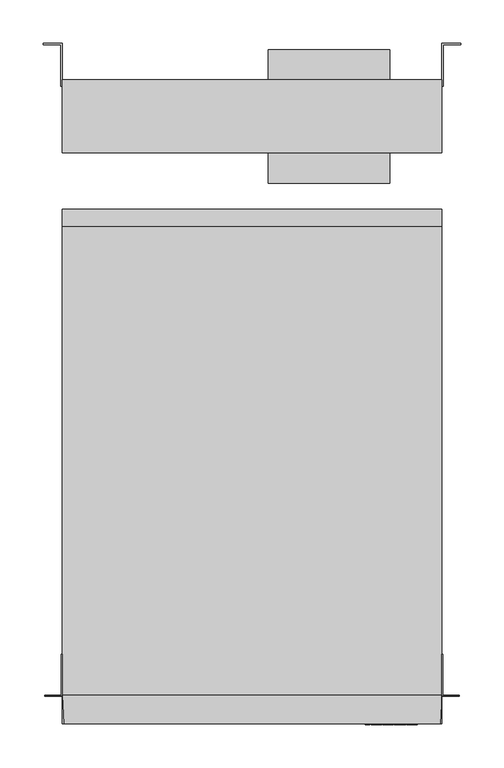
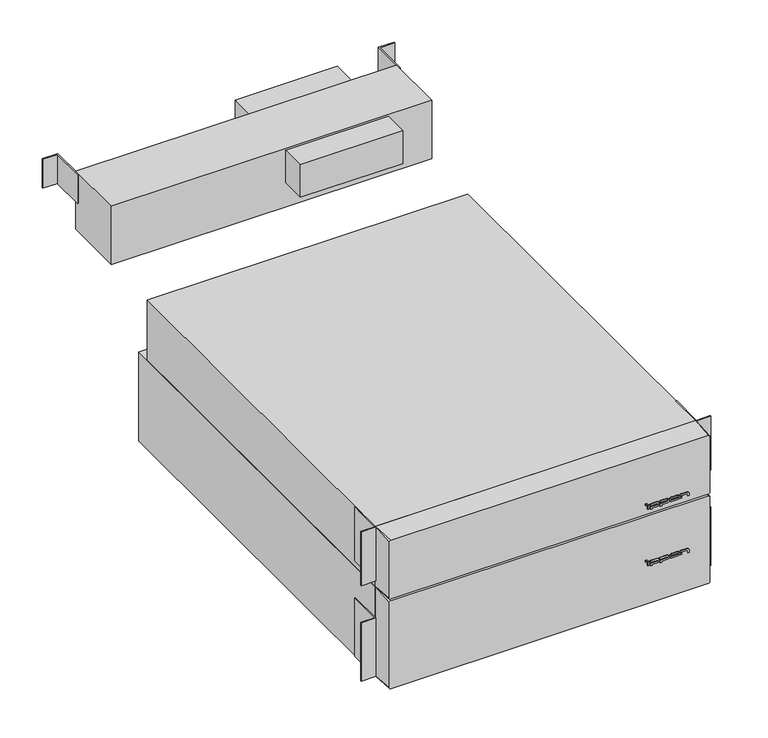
"""IFC4 building model written with IfcOpenShell, lengths in millimetres: proxy geometry, IPPON_ИБП_Innova RT II_60000_10000ВА_Горизонтальный : Innova RT II 6000 ВА."""

from ifc_helpers import new_model, si_unit, point, frame, frame_2d, origin, place, context, project, spatial, polyline, circle_curve, trimmed, segment, composite_curve, outline, extrude, source, transform, mapped, element, save
from ifc_brep_helpers import plane_surface, spline_surface, advanced_brep


def electrical_equipment_16744219(model_context):
    return source(origin(), model_context, "Body", "SolidModel", [
        extrude(outline(polyline([(219.0, 658.2629129), (-219.0, 658.2629129), (-219.0, 742.2629129), (219.0, 742.2629129), (219.0, 658.2629129)])), frame((0.0, 0.0, 88.0), z_axis=(0.0, 0.0, 1.0), x_axis=(1.0, 0.0, 0.0)), (0.0, 0.0, 1.0), 84.0),
        extrude(outline(polyline([(219.0, 784.5), (240.5, 784.5), (240.5, 783.0), (220.5, 783.0), (220.5, 735.2629129), (219.0, 735.2629129), (219.0, 784.5)])), frame((0.0, 0.0, 130.0), z_axis=(0.0, 0.0, 1.0), x_axis=(1.0, 0.0, 0.0)), (0.0, 0.0, 1.0), 42.0),
        extrude(outline(polyline([(-219.0, 784.5), (-219.0, 735.2629129), (-220.5, 735.2629129), (-220.5, 783.0), (-240.5, 783.0), (-240.5, 784.5), (-219.0, 784.5)])), frame((0.0, 0.0, 130.0), z_axis=(0.0, 0.0, 1.0), x_axis=(1.0, 0.0, 0.0)), (0.0, 0.0, 1.0), 42.0),
        extrude(outline(polyline([(159.0, 623.2629129), (19.0, 623.2629129), (19.0, 777.2629129), (159.0, 777.2629129), (159.0, 623.2629129)])), frame((0.0, 0.0, 123.0), z_axis=(0.0, 0.0, 1.0), x_axis=(1.0, 0.0, 0.0)), (0.0, 0.0, 1.0), 47.0),
        extrude(outline(polyline([(132.8281867, -1.0), (130.8281867, -1.0), (130.8281867, 0.0), (132.8281867, 0.0), (132.8281867, -1.0)])), frame((0.0, 0.0, -65.8), z_axis=(0.0, 0.0, 1.0), x_axis=(1.0, 0.0, 0.0)), (0.0, 0.0, 1.0), 2.3),
        extrude(outline(polyline([(180.6035474, -1.0), (178.6035474, -1.0), (178.6035474, 0.0), (180.6035474, 0.0), (180.6035474, -1.0)])), frame((0.0, 0.0, -71.8), z_axis=(0.0, 0.0, 1.0), x_axis=(1.0, 0.0, 0.0)), (0.0, 0.0, 1.0), 2.2268231),
        extrude(outline(polyline([(135.561435, -1.0), (133.5166676, -1.0), (133.5166676, 0.0), (135.561435, 0.0), (135.561435, -1.0)])), frame((0.0, 0.0, -71.8), z_axis=(0.0, 0.0, 1.0), x_axis=(1.0, 0.0, 0.0)), (0.0, 0.0, 1.0), 6.0),
        extrude(outline(composite_curve([segment(polyline([(-68.06244, 137.7758891), (-68.06244, 147.0076464)]), True, "CONTINUOUS"), segment(trimmed(circle_curve(frame_2d((-68.9189193, 147.0076464)), 0.8564793), [point((-68.06244, 147.0076464))], [point((-69.7753986, 147.0076464))], True, "CARTESIAN"), True, "CONTINUOUS"), segment(polyline([(-69.7753986, 147.0076464), (-69.7753986, 137.7758891), (-73.2659032, 137.7758891), (-73.2659032, 139.7758891), (-71.8, 139.7758891), (-71.8, 146.8513964)]), True, "CONTINUOUS"), segment(trimmed(circle_curve(frame_2d((-68.8, 146.8513964)), 3.0), [point((-71.8, 146.8513964))], [point((-65.8, 146.8513964))], False, "CARTESIAN"), True, "CONTINUOUS"), segment(polyline([(-65.8, 146.8513964), (-65.8, 137.7758891), (-68.06244, 137.7758891)]), True, "CONTINUOUS")], self_intersect=False)), frame((0.0, -1.0, 0.0), z_axis=(0.0, 1.0, 0.0), x_axis=(0.0, 0.0, 1.0)), (0.0, 0.0, 1.0), 1.0),
        extrude(outline(composite_curve([segment(polyline([(-68.06244, 150.9828909), (-68.06244, 160.2146482)]), True, "CONTINUOUS"), segment(trimmed(circle_curve(frame_2d((-68.9189193, 160.2146482)), 0.8564793), [point((-68.06244, 160.2146482))], [point((-69.7753986, 160.2146482))], True, "CARTESIAN"), True, "CONTINUOUS"), segment(polyline([(-69.7753986, 160.2146482), (-69.7753986, 150.9828909), (-73.2659032, 150.9828909), (-73.2659032, 152.9828909), (-71.8, 152.9828909), (-71.8, 160.0583982)]), True, "CONTINUOUS"), segment(trimmed(circle_curve(frame_2d((-68.8, 160.0583982)), 3.0), [point((-71.8, 160.0583982))], [point((-65.8, 160.0583982))], False, "CARTESIAN"), True, "CONTINUOUS"), segment(polyline([(-65.8, 160.0583982), (-65.8, 150.9828909), (-68.06244, 150.9828909)]), True, "CONTINUOUS")], self_intersect=False)), frame((0.0, -1.0, 0.0), z_axis=(0.0, 1.0, 0.0), x_axis=(0.0, 0.0, 1.0)), (0.0, 0.0, 1.0), 1.0),
        extrude(outline(composite_curve([segment(trimmed(circle_curve(frame_2d((-68.8, 174.558657)), 3.0), [point((-71.8, 174.558657))], [point((-65.8, 174.558657))], False, "CARTESIAN"), True, "CONTINUOUS"), segment(polyline([(-65.8, 174.558657), (-65.8, 166.958657)]), True, "CONTINUOUS"), segment(trimmed(circle_curve(frame_2d((-68.8, 166.958657)), 3.0), [point((-65.8, 166.958657))], [point((-71.8, 166.958657))], False, "CARTESIAN"), True, "CONTINUOUS"), segment(polyline([(-71.8, 166.958657), (-71.8, 174.558657)]), True, "CONTINUOUS")], self_intersect=False), holes=[composite_curve([segment(polyline([(-69.7753986, 174.714907), (-69.7753986, 166.802407)]), True, "CONTINUOUS"), segment(trimmed(circle_curve(frame_2d((-68.9189193, 166.802407)), 0.8564793), [point((-69.7753986, 166.802407))], [point((-68.06244, 166.802407))], True, "CARTESIAN"), True, "CONTINUOUS"), segment(polyline([(-68.06244, 166.802407), (-68.06244, 174.714907)]), True, "CONTINUOUS"), segment(trimmed(circle_curve(frame_2d((-68.9189193, 174.714907)), 0.8564793), [point((-68.06244, 174.714907))], [point((-69.7753986, 174.714907))], True, "CARTESIAN"), True, "CONTINUOUS")], self_intersect=False)]), frame((0.0, -1.0, 0.0), z_axis=(0.0, 1.0, 0.0), x_axis=(0.0, 0.0, 1.0)), (0.0, 0.0, 1.0), 1.0),
        extrude(outline(composite_curve([segment(polyline([(-68.06244, 178.6035474), (-68.06244, 187.8353046)]), True, "CONTINUOUS"), segment(trimmed(circle_curve(frame_2d((-68.9189193, 187.8353046)), 0.8564793), [point((-68.06244, 187.8353046))], [point((-68.9189193, 188.6917839))], True, "CARTESIAN"), True, "CONTINUOUS"), segment(polyline([(-68.9189193, 188.6917839), (-71.8, 188.6917839), (-71.8, 190.6317921), (-68.2695835, 190.6317921)]), True, "CONTINUOUS"), segment(trimmed(circle_curve(frame_2d((-68.8, 187.6790546)), 3.0), [point((-68.2695835, 190.6317921))], [point((-65.8, 187.6790546))], False, "CARTESIAN"), True, "CONTINUOUS"), segment(polyline([(-65.8, 187.6790546), (-65.8, 178.6035474), (-68.06244, 178.6035474)]), True, "CONTINUOUS")], self_intersect=False)), frame((0.0, -1.0, 0.0), z_axis=(0.0, 1.0, 0.0), x_axis=(0.0, 0.0, 1.0)), (0.0, 0.0, 1.0), 1.0),
        extrude(outline(polyline([(132.8281867, -1.0), (130.8281867, -1.0), (130.8281867, 0.0), (132.8281867, 0.0), (132.8281867, -1.0)])), frame((0.0, 0.0, 16.0), z_axis=(0.0, 0.0, 1.0), x_axis=(1.0, 0.0, 0.0)), (0.0, 0.0, 1.0), 2.3),
        extrude(outline(polyline([(180.6035474, -1.0), (178.6035474, -1.0), (178.6035474, 0.0), (180.6035474, 0.0), (180.6035474, -1.0)])), frame((0.0, 0.0, 10.0), z_axis=(0.0, 0.0, 1.0), x_axis=(1.0, 0.0, 0.0)), (0.0, 0.0, 1.0), 2.2268231),
        extrude(outline(polyline([(135.561435, -1.0), (133.5166676, -1.0), (133.5166676, 0.0), (135.561435, 0.0), (135.561435, -1.0)])), frame((0.0, 0.0, 10.0), z_axis=(0.0, 0.0, 1.0), x_axis=(1.0, 0.0, 0.0)), (0.0, 0.0, 1.0), 6.0),
        extrude(outline(composite_curve([segment(polyline([(13.73756, 137.7758891), (13.73756, 147.0076464)]), True, "CONTINUOUS"), segment(trimmed(circle_curve(frame_2d((12.8810807, 147.0076464)), 0.8564793), [point((13.73756, 147.0076464))], [point((12.0246014, 147.0076464))], True, "CARTESIAN"), True, "CONTINUOUS"), segment(polyline([(12.0246014, 147.0076464), (12.0246014, 137.7758891), (8.5340968, 137.7758891), (8.5340968, 139.7758891), (10.0, 139.7758891), (10.0, 146.8513964)]), True, "CONTINUOUS"), segment(trimmed(circle_curve(frame_2d((13.0, 146.8513964)), 3.0), [point((10.0, 146.8513964))], [point((16.0, 146.8513964))], False, "CARTESIAN"), True, "CONTINUOUS"), segment(polyline([(16.0, 146.8513964), (16.0, 137.7758891), (13.73756, 137.7758891)]), True, "CONTINUOUS")], self_intersect=False)), frame((0.0, -1.0, 0.0), z_axis=(0.0, 1.0, 0.0), x_axis=(0.0, 0.0, 1.0)), (0.0, 0.0, 1.0), 1.0),
        extrude(outline(composite_curve([segment(polyline([(13.73756, 150.9828909), (13.73756, 160.2146482)]), True, "CONTINUOUS"), segment(trimmed(circle_curve(frame_2d((12.8810807, 160.2146482)), 0.8564793), [point((13.73756, 160.2146482))], [point((12.0246014, 160.2146482))], True, "CARTESIAN"), True, "CONTINUOUS"), segment(polyline([(12.0246014, 160.2146482), (12.0246014, 150.9828909), (8.5340968, 150.9828909), (8.5340968, 152.9828909), (10.0, 152.9828909), (10.0, 160.0583982)]), True, "CONTINUOUS"), segment(trimmed(circle_curve(frame_2d((13.0, 160.0583982)), 3.0), [point((10.0, 160.0583982))], [point((16.0, 160.0583982))], False, "CARTESIAN"), True, "CONTINUOUS"), segment(polyline([(16.0, 160.0583982), (16.0, 150.9828909), (13.73756, 150.9828909)]), True, "CONTINUOUS")], self_intersect=False)), frame((0.0, -1.0, 0.0), z_axis=(0.0, 1.0, 0.0), x_axis=(0.0, 0.0, 1.0)), (0.0, 0.0, 1.0), 1.0),
        extrude(outline(composite_curve([segment(trimmed(circle_curve(frame_2d((13.0, 174.558657)), 3.0), [point((10.0, 174.558657))], [point((16.0, 174.558657))], False, "CARTESIAN"), True, "CONTINUOUS"), segment(polyline([(16.0, 174.558657), (16.0, 166.958657)]), True, "CONTINUOUS"), segment(trimmed(circle_curve(frame_2d((13.0, 166.958657)), 3.0), [point((16.0, 166.958657))], [point((10.0, 166.958657))], False, "CARTESIAN"), True, "CONTINUOUS"), segment(polyline([(10.0, 166.958657), (10.0, 174.558657)]), True, "CONTINUOUS")], self_intersect=False), holes=[composite_curve([segment(polyline([(12.0246014, 174.714907), (12.0246014, 166.802407)]), True, "CONTINUOUS"), segment(trimmed(circle_curve(frame_2d((12.8810807, 166.802407)), 0.8564793), [point((12.0246014, 166.802407))], [point((13.73756, 166.802407))], True, "CARTESIAN"), True, "CONTINUOUS"), segment(polyline([(13.73756, 166.802407), (13.73756, 174.714907)]), True, "CONTINUOUS"), segment(trimmed(circle_curve(frame_2d((12.8810807, 174.714907)), 0.8564793), [point((13.73756, 174.714907))], [point((12.0246014, 174.714907))], True, "CARTESIAN"), True, "CONTINUOUS")], self_intersect=False)]), frame((0.0, -1.0, 0.0), z_axis=(0.0, 1.0, 0.0), x_axis=(0.0, 0.0, 1.0)), (0.0, 0.0, 1.0), 1.0),
        extrude(outline(composite_curve([segment(polyline([(13.73756, 178.6035474), (13.73756, 187.8353046)]), True, "CONTINUOUS"), segment(trimmed(circle_curve(frame_2d((12.8810807, 187.8353046)), 0.8564793), [point((13.73756, 187.8353046))], [point((12.8810807, 188.6917839))], True, "CARTESIAN"), True, "CONTINUOUS"), segment(polyline([(12.8810807, 188.6917839), (10.0, 188.6917839), (10.0, 190.6317921), (13.5304165, 190.6317921)]), True, "CONTINUOUS"), segment(trimmed(circle_curve(frame_2d((13.0, 187.6790546)), 3.0), [point((13.5304165, 190.6317921))], [point((16.0, 187.6790546))], False, "CARTESIAN"), True, "CONTINUOUS"), segment(polyline([(16.0, 187.6790546), (16.0, 178.6035474), (13.73756, 178.6035474)]), True, "CONTINUOUS")], self_intersect=False)), frame((0.0, -1.0, 0.0), z_axis=(0.0, 1.0, 0.0), x_axis=(0.0, 0.0, 1.0)), (0.0, 0.0, 1.0), 1.0),
        extrude(outline(polyline([(-219.0, 32.0), (-239.0, 32.0), (-239.0, 33.0), (-220.0, 33.0), (-220.0, 80.0), (-219.0, 80.0), (-219.0, 32.0)])), frame((0.0, 0.0, -128.0), z_axis=(0.0, 0.0, 1.0), x_axis=(1.0, 0.0, 0.0)), (0.0, 0.0, 1.0), 84.5),
        extrude(outline(polyline([(239.0, 32.0), (219.0, 32.0), (219.0, 80.0), (220.0, 80.0), (220.0, 33.0), (239.0, 33.0), (239.0, 32.0)])), frame((0.0, 0.0, -128.0), z_axis=(0.0, 0.0, 1.0), x_axis=(1.0, 0.0, 0.0)), (0.0, 0.0, 1.0), 84.5),
        extrude(outline(polyline([(219.0, 33.0), (-219.0, 33.0), (-219.0, 593.0), (219.0, 593.0), (219.0, 33.0)])), frame((0.0, 0.0, -128.0), z_axis=(0.0, 0.0, 1.0), x_axis=(1.0, 0.0, 0.0)), (0.0, 0.0, 1.0), 129.0),
        advanced_brep(
        [(217.0, 0.0, -127.0), (219.0, 0.0, -125.0), (219.0, 0.0, -2.0), (217.0, 0.0, 0.0), (-217.0, 0.0, 0.0), (-219.0, 0.0, -2.0), (-219.0, 0.0, -125.0), (-217.0, 0.0, -127.0), (219.0, 33.0, -128.0), (-219.0, 33.0, -128.0), (-219.0, 33.0, 1.0), (219.0, 33.0, 1.0)],
        [
            (0, 1, circle_curve(frame((217.0, 0.0, -125.0), z_axis=(0.0, -1.0, 0.0), x_axis=(-1.0, 0.0, 0.0)), 2.0)),
            (1, 2),
            (2, 3, circle_curve(frame((217.0, 0.0, -2.0), z_axis=(0.0, -1.0, 0.0), x_axis=(-1.0, 0.0, 0.0)), 2.0)),
            (3, 4),
            (4, 5, circle_curve(frame((-217.0, 0.0, -2.0), z_axis=(0.0, -1.0, 0.0), x_axis=(-1.0, 0.0, 0.0)), 2.0)),
            (5, 6),
            (6, 7, circle_curve(frame((-217.0, 0.0, -125.0), z_axis=(0.0, -1.0, 0.0), x_axis=(-1.0, 0.0, 0.0)), 2.0)),
            (7, 0),
            (8, 9),
            (9, 10),
            (10, 11),
            (11, 8),
            (0, 8),
            (8, 1),
            (7, 9),
            (6, 9),
            (5, 10),
            (4, 10),
            (3, 11),
            (2, 11),
        ],
        [
            plane_surface(frame((0.0, 0.0, -63.5), z_axis=(0.0, -1.0, 0.0), x_axis=(1.0, 0.0, 0.0))),
            plane_surface(frame((0.0, 33.0, -63.5), z_axis=(0.0, 1.0, 0.0), x_axis=(1.0, 0.0, 0.0))),
            spline_surface(2, 1, [[(219.0, 33.0, -128.0), (217.0, 0.0, -127.0)], [(219.0, 33.0, -128.0), (219.0, 0.0, -127.0)], [(219.0, 33.0, -128.0), (219.0, 0.0, -125.0)]], [3, 3], [2, 2], [0.0, 1.0], [0.0, 1.0], weights=[[1.0, 1.0], [0.7071067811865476, 0.7071067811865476], [1.0, 1.0]]),
            plane_surface(frame((0.0, 33.0, -128.0), z_axis=(0.0, -0.030289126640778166, -0.9995411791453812), x_axis=(1.0, 0.0, 0.0))),
            spline_surface(2, 1, [[(-219.0, 33.0, -128.0), (-219.0, 0.0, -125.0)], [(-219.0, 33.0, -128.0), (-219.0, 0.0, -127.0)], [(-219.0, 33.0, -128.0), (-217.0, 0.0, -127.0)]], [3, 3], [2, 2], [0.0, 1.0], [0.0, 1.0], weights=[[1.0, 1.0], [0.7071067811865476, 0.7071067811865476], [1.0, 1.0]]),
            plane_surface(frame((-219.0, 33.0, -63.5), z_axis=(-1.0, 0.0, 0.0), x_axis=(0.0, 0.0, -1.0))),
            spline_surface(2, 1, [[(-219.0, 33.0, 1.0), (-217.0, 0.0, 0.0)], [(-219.0, 33.0, 1.0), (-219.0, 0.0, 0.0)], [(-219.0, 33.0, 1.0), (-219.0, 0.0, -2.0)]], [3, 3], [2, 2], [0.0, 1.0], [0.0, 1.0], weights=[[1.0, 1.0], [0.7071067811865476, 0.7071067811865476], [1.0, 1.0]]),
            plane_surface(frame((0.0, 33.0, 1.0), z_axis=(0.0, -0.03028912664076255, 0.9995411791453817), x_axis=(-1.0, 0.0, 0.0))),
            spline_surface(2, 1, [[(219.0, 33.0, 1.0), (219.0, 0.0, -2.0)], [(219.0, 33.0, 1.0), (219.0, 0.0, 0.0)], [(219.0, 33.0, 1.0), (217.0, 0.0, 0.0)]], [3, 3], [2, 2], [0.0, 1.0], [0.0, 1.0], weights=[[1.0, 1.0], [0.7071067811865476, 0.7071067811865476], [1.0, 1.0]]),
            plane_surface(frame((219.0, 33.0, -63.5), z_axis=(1.0, 0.0, 0.0), x_axis=(0.0, 0.0, 1.0))),
        ],
        [
            (0, [[1, 2, 3, 4, 5, 6, 7, 8]]),
            (1, [[9, 10, 11, 12]]),
            (2, [[-1, 13, 14]]),
            (3, [[-9, -13, -8, 15]]),
            (4, [[-7, 16, -15]]),
            (5, [[-10, -16, -6, 17]]),
            (6, [[-5, 18, -17]]),
            (7, [[-11, -18, -4, 19]]),
            (8, [[-3, 20, -19]]),
            (9, [[-12, -20, -2, -14]]),
        ],
    ),
        extrude(outline(polyline([(219.0, 32.0), (219.0, 80.0), (220.0, 80.0), (220.0, 33.0), (239.0, 33.0), (239.0, 32.0), (219.0, 32.0)])), frame((0.0, 0.0, 10.0), z_axis=(0.0, 0.0, 1.0), x_axis=(1.0, 0.0, 0.0)), (0.0, 0.0, 1.0), 78.0),
        extrude(outline(polyline([(-219.0, 32.0), (-239.0, 32.0), (-239.0, 33.0), (-220.0, 33.0), (-220.0, 80.0), (-219.0, 80.0), (-219.0, 32.0)])), frame((0.0, 0.0, 10.0), z_axis=(0.0, 0.0, 1.0), x_axis=(1.0, 0.0, 0.0)), (0.0, 0.0, 1.0), 78.0),
        advanced_brep(
        [(217.0, 0.0, 2.5), (219.0, 0.0, 4.5), (219.0, 0.0, 85.0), (217.0, 0.0, 87.0), (-217.0, 0.0, 87.0), (-219.0, 0.0, 85.0), (-219.0, 0.0, 4.5), (-217.0, 0.0, 2.5), (219.0, 33.0, 1.5), (-219.0, 33.0, 1.5), (-219.0, 33.0, 88.0), (219.0, 33.0, 88.0)],
        [
            (0, 1, circle_curve(frame((217.0, 0.0, 4.5), z_axis=(0.0, -1.0, 0.0), x_axis=(-1.0, 0.0, 0.0)), 2.0)),
            (1, 2),
            (2, 3, circle_curve(frame((217.0, 0.0, 85.0), z_axis=(0.0, -1.0, 0.0), x_axis=(-1.0, 0.0, 0.0)), 2.0)),
            (3, 4),
            (4, 5, circle_curve(frame((-217.0, 0.0, 85.0), z_axis=(0.0, -1.0, 0.0), x_axis=(-1.0, 0.0, 0.0)), 2.0)),
            (5, 6),
            (6, 7, circle_curve(frame((-217.0, 0.0, 4.5), z_axis=(0.0, -1.0, 0.0), x_axis=(-1.0, 0.0, 0.0)), 2.0)),
            (7, 0),
            (8, 9),
            (9, 10),
            (10, 11),
            (11, 8),
            (0, 8),
            (8, 1),
            (7, 9),
            (6, 9),
            (5, 10),
            (4, 10),
            (3, 11),
            (2, 11),
        ],
        [
            plane_surface(frame((0.0, 0.0, 44.75), z_axis=(0.0, -1.0, 0.0), x_axis=(1.0, 0.0, 0.0))),
            plane_surface(frame((0.0, 33.0, 44.75), z_axis=(0.0, 1.0, 0.0), x_axis=(1.0, 0.0, 0.0))),
            spline_surface(2, 1, [[(219.0, 33.0, 1.5), (217.0, 0.0, 2.5)], [(219.0, 33.0, 1.5), (219.0, 0.0, 2.5)], [(219.0, 33.0, 1.5), (219.0, 0.0, 4.5)]], [3, 3], [2, 2], [0.0, 1.0], [0.0, 1.0], weights=[[1.0, 1.0], [0.7071067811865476, 0.7071067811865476], [1.0, 1.0]]),
            plane_surface(frame((0.0, 33.0, 1.5), z_axis=(0.0, -0.030289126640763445, -0.9995411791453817), x_axis=(1.0, 0.0, 0.0))),
            spline_surface(2, 1, [[(-219.0, 33.0, 1.5), (-219.0, 0.0, 4.5)], [(-219.0, 33.0, 1.5), (-219.0, 0.0, 2.5)], [(-219.0, 33.0, 1.5), (-217.0, 0.0, 2.5)]], [3, 3], [2, 2], [0.0, 1.0], [0.0, 1.0], weights=[[1.0, 1.0], [0.7071067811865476, 0.7071067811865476], [1.0, 1.0]]),
            plane_surface(frame((-219.0, 33.0, 44.75), z_axis=(-1.0, 0.0, 0.0), x_axis=(0.0, 0.0, -1.0))),
            spline_surface(2, 1, [[(-219.0, 33.0, 88.0), (-217.0, 0.0, 87.0)], [(-219.0, 33.0, 88.0), (-219.0, 0.0, 87.0)], [(-219.0, 33.0, 88.0), (-219.0, 0.0, 85.0)]], [3, 3], [2, 2], [0.0, 1.0], [0.0, 1.0], weights=[[1.0, 1.0], [0.7071067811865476, 0.7071067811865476], [1.0, 1.0]]),
            plane_surface(frame((0.0, 33.0, 88.0), z_axis=(0.0, -0.030289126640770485, 0.9995411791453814), x_axis=(-1.0, 0.0, 0.0))),
            spline_surface(2, 1, [[(219.0, 33.0, 88.0), (219.0, 0.0, 85.0)], [(219.0, 33.0, 88.0), (219.0, 0.0, 87.0)], [(219.0, 33.0, 88.0), (217.0, 0.0, 87.0)]], [3, 3], [2, 2], [0.0, 1.0], [0.0, 1.0], weights=[[1.0, 1.0], [0.7071067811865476, 0.7071067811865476], [1.0, 1.0]]),
            plane_surface(frame((219.0, 33.0, 44.75), z_axis=(1.0, 0.0, 0.0), x_axis=(0.0, 0.0, 1.0))),
        ],
        [
            (0, [[1, 2, 3, 4, 5, 6, 7, 8]]),
            (1, [[9, 10, 11, 12]]),
            (2, [[-1, 13, 14]]),
            (3, [[-9, -13, -8, 15]]),
            (4, [[-7, 16, -15]]),
            (5, [[-10, -16, -6, 17]]),
            (6, [[-5, 18, -17]]),
            (7, [[-11, -18, -4, 19]]),
            (8, [[-3, 20, -19]]),
            (9, [[-12, -20, -2, -14]]),
        ],
    ),
        extrude(outline(polyline([(219.0, 33.0), (-219.0, 33.0), (-219.0, 573.0), (219.0, 573.0), (219.0, 33.0)])), frame((0.0, 0.0, 1.5), z_axis=(0.0, 0.0, 1.0), x_axis=(1.0, 0.0, 0.0)), (0.0, 0.0, 1.0), 86.5),
    ])


if __name__ == "__main__":
    model = new_model("IFC4")
    model_context = context("Model", 3, world=origin())
    ifc_project = project(units=[si_unit("LENGTHUNIT", "METRE", prefix="MILLI")], contexts=[model_context])
    site = spatial("IfcSite", under=ifc_project)
    building = spatial("IfcBuilding", under=site)
    placement = place(None, origin())
    electrical_equipment_shape = electrical_equipment_16744219(model_context)
    element("IfcBuildingElementProxy", 1, Name="IPPON_ИБП_Innova RT II_60000_10000ВА_Горизонтальный : Innova RT II 6000 ВА", ObjectType="IPPON_ИБП_Innova RT II_60000_10000ВА_Горизонтальный : Innova RT II 6000 ВА", at=placement, inside=building, context=model_context, shape_type="MappedRepresentation", body=[
        mapped(electrical_equipment_shape, transform((0.0, 0.0, 0.0), x_axis=(1.0, 0.0, 0.0), y_axis=(0.0, 1.0, 0.0), z_axis=(0.0, 0.0, 1.0))),
    ])
    save(model, "model.ifc")
